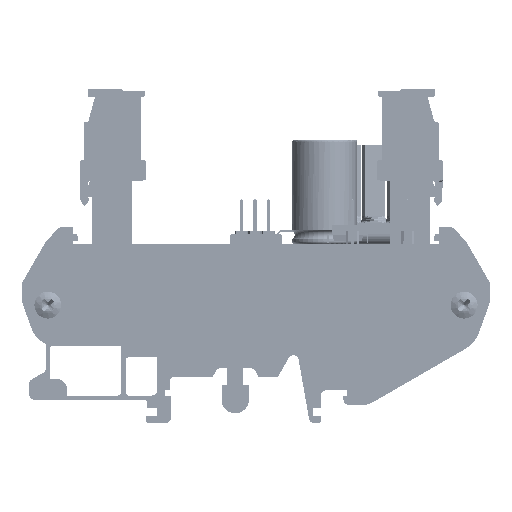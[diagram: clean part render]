
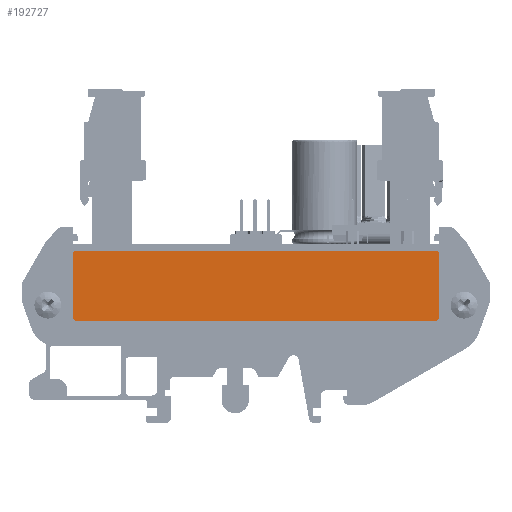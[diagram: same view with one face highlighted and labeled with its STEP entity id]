
A CAD part, left-side view. The second image highlights one B-rep face of the part: STEP entity #192727.
In plain terms, the highlighted planar face has unit normal (-1, 0, 0).
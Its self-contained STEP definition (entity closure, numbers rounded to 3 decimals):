
#4288=FACE_OUTER_BOUND('',#14710,.T.);
#14710=EDGE_LOOP('',(#121144,#121145,#121146,#121147,#121148,#121149,#121150,
#121151));
#25986=CIRCLE('',#203326,0.5);
#26105=CIRCLE('',#203576,0.5);
#26107=CIRCLE('',#203582,0.5);
#26121=CIRCLE('',#203635,0.5);
#31736=LINE('',#273838,#52972);
#32110=LINE('',#274837,#53346);
#32113=LINE('',#274845,#53349);
#32184=LINE('',#275017,#53420);
#52972=VECTOR('',#220244,1000.);
#53346=VECTOR('',#221156,1000.);
#53349=VECTOR('',#221161,1000.);
#53420=VECTOR('',#221348,1000.);
#74263=VERTEX_POINT('',#273835);
#74264=VERTEX_POINT('',#273837);
#74280=VERTEX_POINT('',#273888);
#74618=VERTEX_POINT('',#274828);
#74620=VERTEX_POINT('',#274835);
#74623=VERTEX_POINT('',#274842);
#74624=VERTEX_POINT('',#274844);
#74667=VERTEX_POINT('',#275012);
#92260=EDGE_CURVE('',#74263,#74264,#31736,.T.);
#92286=EDGE_CURVE('',#74264,#74280,#25986,.T.);
#92758=EDGE_CURVE('',#74618,#74263,#26105,.T.);
#92761=EDGE_CURVE('',#74620,#74618,#32110,.T.);
#92764=EDGE_CURVE('',#74624,#74623,#32113,.T.);
#92767=EDGE_CURVE('',#74624,#74620,#26107,.T.);
#92850=EDGE_CURVE('',#74667,#74623,#26121,.T.);
#92851=EDGE_CURVE('',#74280,#74667,#32184,.T.);
#121144=ORIENTED_EDGE('',*,*,#92851,.F.);
#121145=ORIENTED_EDGE('',*,*,#92286,.F.);
#121146=ORIENTED_EDGE('',*,*,#92260,.F.);
#121147=ORIENTED_EDGE('',*,*,#92758,.F.);
#121148=ORIENTED_EDGE('',*,*,#92761,.F.);
#121149=ORIENTED_EDGE('',*,*,#92767,.F.);
#121150=ORIENTED_EDGE('',*,*,#92764,.T.);
#121151=ORIENTED_EDGE('',*,*,#92850,.F.);
#173899=PLANE('',#203637);
#192727=ADVANCED_FACE('',(#4288),#173899,.F.);
#203326=AXIS2_PLACEMENT_3D('',#273889,#220295,#220296);
#203576=AXIS2_PLACEMENT_3D('',#274830,#221148,#221149);
#203582=AXIS2_PLACEMENT_3D('',#274849,#221167,#221168);
#203635=AXIS2_PLACEMENT_3D('',#275014,#221342,#221343);
#203637=AXIS2_PLACEMENT_3D('',#275016,#221346,#221347);
#220244=DIRECTION('',(0.,0.,1.));
#220295=DIRECTION('center_axis',(1.,0.,0.));
#220296=DIRECTION('ref_axis',(0.,-1.,0.));
#221148=DIRECTION('center_axis',(1.,0.,0.));
#221149=DIRECTION('ref_axis',(0.,-1.,0.));
#221156=DIRECTION('',(0.,1.,0.));
#221161=DIRECTION('',(0.,0.,1.));
#221167=DIRECTION('center_axis',(1.,0.,0.));
#221168=DIRECTION('ref_axis',(0.,-1.,0.));
#221342=DIRECTION('center_axis',(1.,0.,0.));
#221343=DIRECTION('ref_axis',(0.,-1.,0.));
#221346=DIRECTION('center_axis',(1.,0.,0.));
#221347=DIRECTION('ref_axis',(0.,1.,0.));
#221348=DIRECTION('',(0.,-1.,0.));
#273835=CARTESIAN_POINT('',(-1.3,71.,-14.2));
#273837=CARTESIAN_POINT('',(-1.3,71.,-1.8));
#273838=CARTESIAN_POINT('',(-1.3,71.,-14.2));
#273888=CARTESIAN_POINT('',(-1.3,70.5,-1.3));
#273889=CARTESIAN_POINT('Origin',(-1.3,70.5,-1.8));
#274828=CARTESIAN_POINT('',(-1.3,70.5,-14.7));
#274830=CARTESIAN_POINT('Origin',(-1.3,70.5,-14.2));
#274835=CARTESIAN_POINT('',(-1.3,1.5,-14.7));
#274837=CARTESIAN_POINT('',(-1.3,1.5,-14.7));
#274842=CARTESIAN_POINT('',(-1.3,1.,-1.8));
#274844=CARTESIAN_POINT('',(-1.3,1.,-14.2));
#274845=CARTESIAN_POINT('',(-1.3,1.,-14.2));
#274849=CARTESIAN_POINT('Origin',(-1.3,1.5,-14.2));
#275012=CARTESIAN_POINT('',(-1.3,1.5,-1.3));
#275014=CARTESIAN_POINT('Origin',(-1.3,1.5,-1.8));
#275016=CARTESIAN_POINT('Origin',(-1.3,56.,-33.65));
#275017=CARTESIAN_POINT('',(-1.3,70.5,-1.3));
